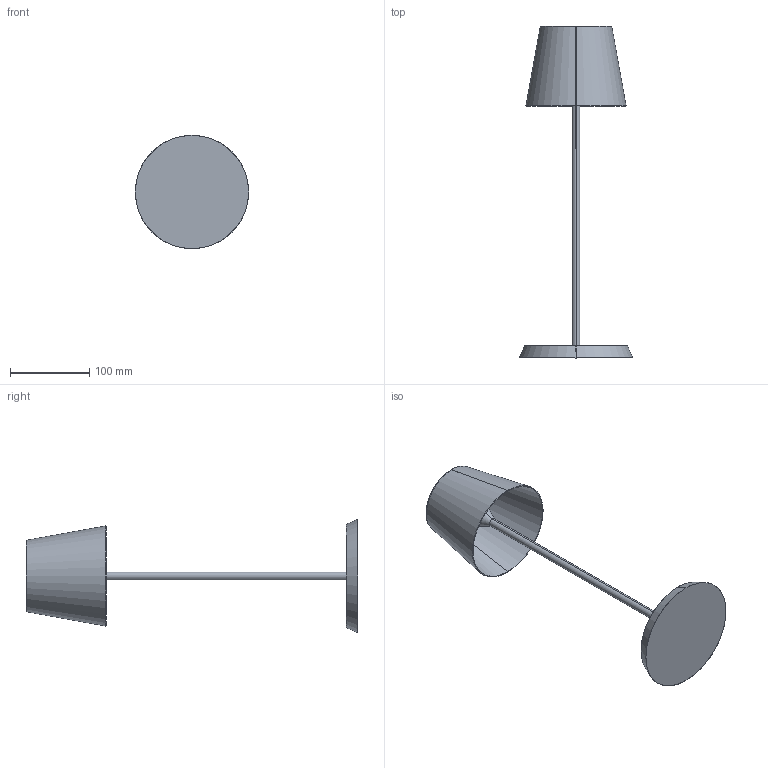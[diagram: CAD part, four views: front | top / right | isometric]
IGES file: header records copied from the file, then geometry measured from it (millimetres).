
Start section: SolidWorks IGES file using analytic representation for surfaces
Global section: file name: C:\Users\danielet\Desktop\3D CARLOS\ASAHI-S8190-3D\ASAHI-S8190-3D.IGS; native system: SolidWorks 2018; preprocessor: SolidWorks 2018; author: danielet; date: 220104.133025; units: millimetre
Bounding box: 142.59 x 417.95 x 142.59 mm (x, y, z)
Surface area: 134057 mm2 (no closed solid volume)
Topology: 0 solids, 0 shells, 16 faces, 400 edges, 400 vertices
Faces by surface type: revolution 12, bspline 4
